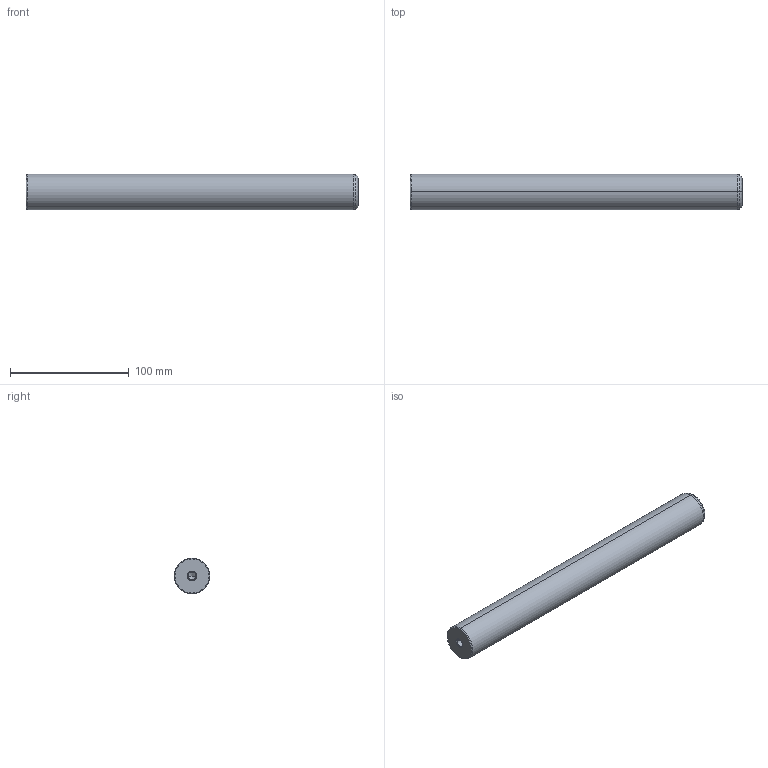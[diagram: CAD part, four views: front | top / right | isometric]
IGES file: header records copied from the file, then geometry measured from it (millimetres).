
Start section: START RECORD GO HERE.
Global section: file name: 720-30x280.igs; native system: DASSAULT SYSTEMES CATIA V5 R20 - www.3ds.com; preprocessor: CATIA Version 5 Release 20 ; author: Utente; organization: NB04-ASUS; date: 20210101.132925; units: millimetre
Bounding box: 280 x 30 x 30 mm (x, y, z)
Surface area: 28600.1 mm2 (no closed solid volume)
Topology: 0 solids, 0 shells, 22 faces, 108 edges, 104 vertices
Faces by surface type: revolution 20, plane 2
